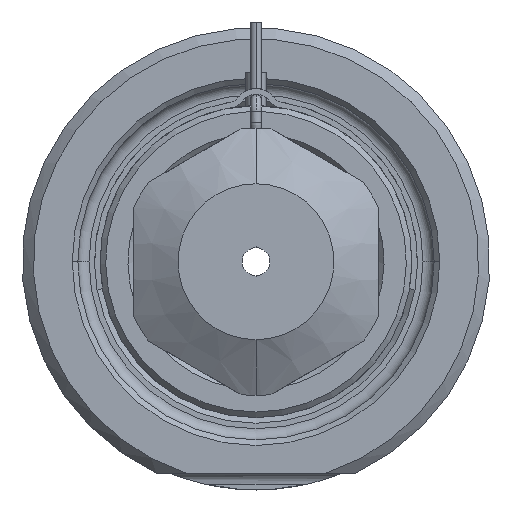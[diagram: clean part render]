
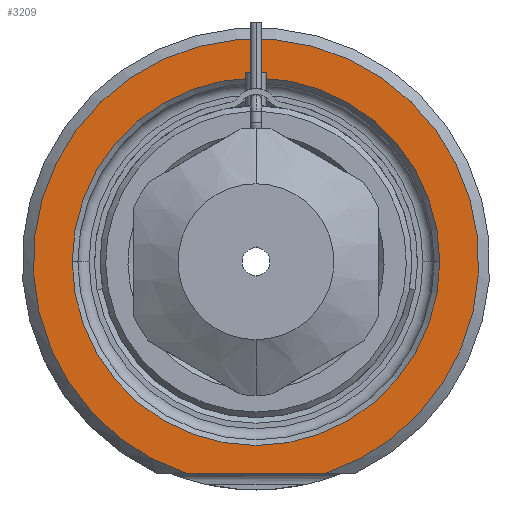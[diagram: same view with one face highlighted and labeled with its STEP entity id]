
A CAD part, front view. The second image highlights one B-rep face of the part: STEP entity #3209.
In plain terms, the highlighted planar face has unit normal (0, -1, 0).
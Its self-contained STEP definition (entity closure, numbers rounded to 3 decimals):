
#1=DIRECTION('',(1.,0.,0.));
#2=VECTOR('',#1,12.49);
#3=CARTESIAN_POINT('',(-6.245,0.,-19.));
#4=LINE('',#3,#2);
#5=CARTESIAN_POINT('',(0.,0.,0.));
#6=DIRECTION('',(0.,1.,0.));
#7=DIRECTION('',(-1.,0.,0.));
#8=AXIS2_PLACEMENT_3D('',#5,#6,#7);
#10=CARTESIAN_POINT('',(0.,0.,0.));
#11=DIRECTION('',(0.,1.,0.));
#12=DIRECTION('',(1.,0.,0.));
#13=AXIS2_PLACEMENT_3D('',#10,#11,#12);
#119=CARTESIAN_POINT('',(0.,0.,0.));
#120=DIRECTION('',(0.,-1.,0.));
#121=DIRECTION('',(0.312,0.,-0.95));
#122=AXIS2_PLACEMENT_3D('',#119,#120,#121);
#2667=CARTESIAN_POINT('',(-16.5,0.,0.));
#2668=CARTESIAN_POINT('',(16.5,0.,0.));
#2669=VERTEX_POINT('',#2667);
#2670=VERTEX_POINT('',#2668);
#2707=CARTESIAN_POINT('',(-6.245,0.,-19.));
#2708=CARTESIAN_POINT('',(6.245,0.,-19.));
#2709=VERTEX_POINT('',#2707);
#2710=VERTEX_POINT('',#2708);
#3192=CARTESIAN_POINT('',(0.,0.,0.));
#3193=DIRECTION('',(0.,-1.,0.));
#3194=DIRECTION('',(1.,0.,0.));
#3195=AXIS2_PLACEMENT_3D('',#3192,#3193,#3194);
#3196=PLANE('',#3195);
#3198=ORIENTED_EDGE('',*,*,#3197,.F.);
#3200=ORIENTED_EDGE('',*,*,#3199,.F.);
#3201=EDGE_LOOP('',(#3198,#3200));
#3202=FACE_OUTER_BOUND('',#3201,.F.);
#3204=ORIENTED_EDGE('',*,*,#3203,.F.);
#3206=ORIENTED_EDGE('',*,*,#3205,.F.);
#3207=EDGE_LOOP('',(#3204,#3206));
#3208=FACE_BOUND('',#3207,.F.);
#3209=ADVANCED_FACE('',(#3202,#3208),#3196,.T.);
#9=CIRCLE('',#8,16.5);
#14=CIRCLE('',#13,16.5);
#123=CIRCLE('',#122,20.);
#3197=EDGE_CURVE('',#2709,#2710,#4,.T.);
#3199=EDGE_CURVE('',#2710,#2709,#123,.T.);
#3203=EDGE_CURVE('',#2669,#2670,#9,.T.);
#3205=EDGE_CURVE('',#2670,#2669,#14,.T.);
